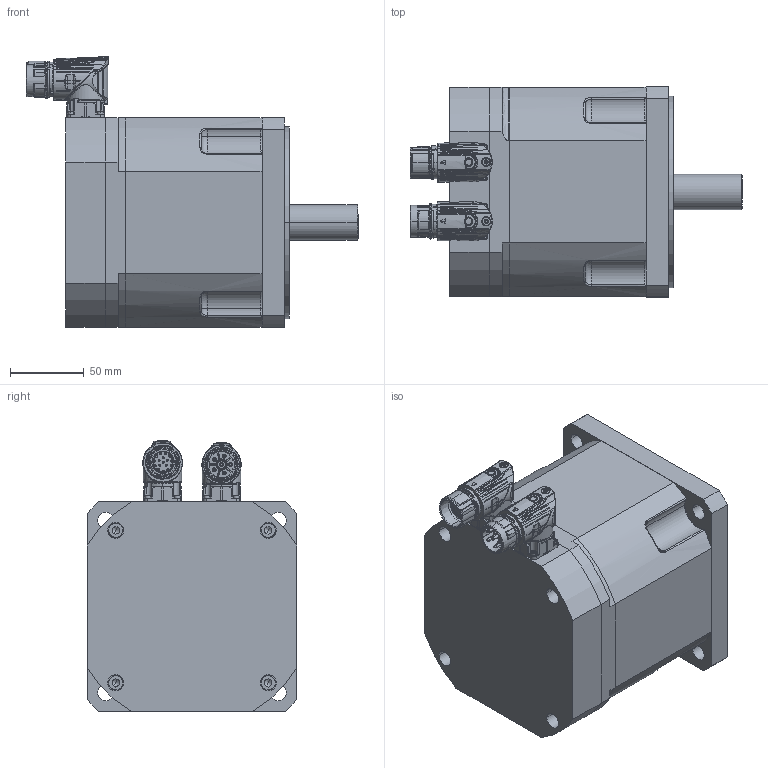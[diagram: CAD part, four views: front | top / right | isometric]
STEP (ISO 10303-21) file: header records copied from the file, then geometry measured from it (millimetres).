
FILE_DESCRIPTION(('CATIA V5 STEP Exchange'),'2;1');
FILE_NAME('C:\Documents and Settings\max\Documenti\sangallimotori\3d step\compatti\motore_DSM5_50_Freno.stp','2010-12-12T21:21:14+00:00',('none'),('none'),'CATIA Version 5 Release 10 (IN-8)','CATIA V5 STEP AP203',' none');
FILE_SCHEMA(('CONFIG_CONTROL_DESIGN'));
Assembly tree (27 placements, depth 0):
Bounding box: 224.81 x 142 x 183.43 mm (x, y, z)
Volume: 2729324.5 mm3; surface area: 265928.3 mm2
Topology: 23 solids, 28 shells, 4106 faces, 13912 edges, 9826 vertices
Faces by surface type: cylinder 1488, bspline 1326, plane 593, torus 357, cone 233, sphere 109
Entity records: 255060 total; most frequent: CARTESIAN_POINT 164661, ORIENTED_EDGE 25548, EDGE_CURVE 12831, VERTEX_POINT 9222, DIRECTION 8840, B_SPLINE_CURVE_WITH_KNOTS 7912, AXIS2_PLACEMENT_3D 4428, EDGE_LOOP 3852
